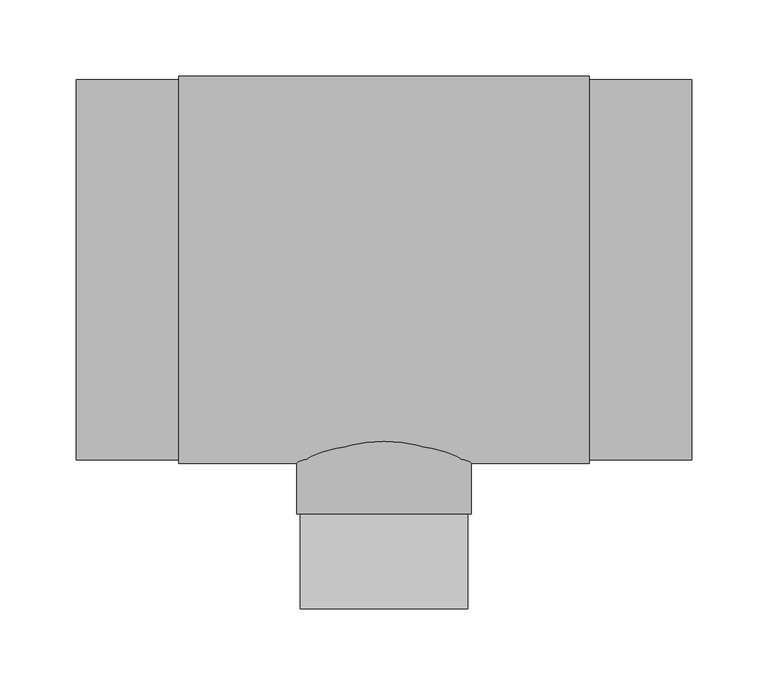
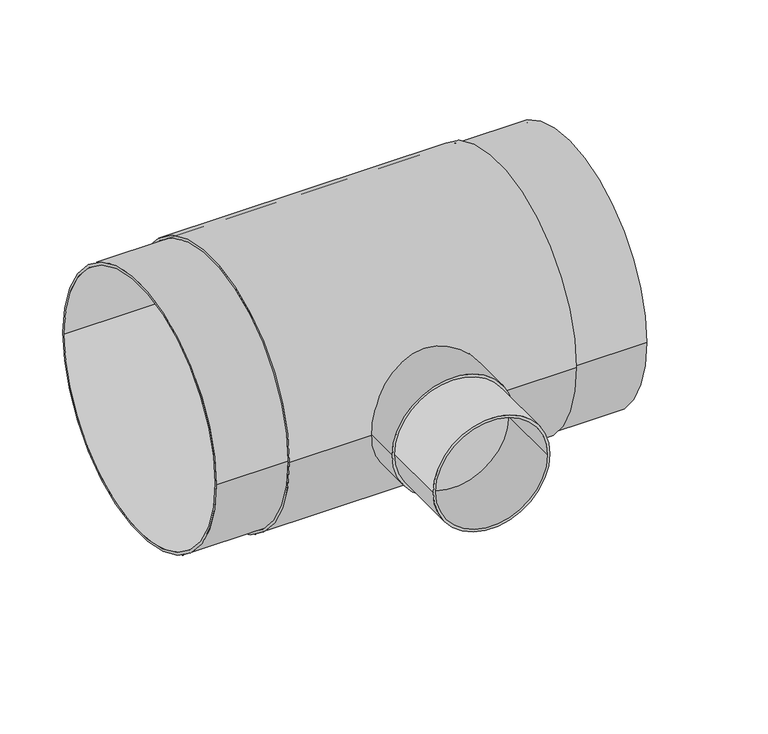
"""IFC4 building model written with IfcOpenShell, lengths in millimetres: pipe fitting geometry, EGB_VASEN_ PPR_Te a tope WXRB300_Te reducida a tope WXRB310 : Te a tope."""

from ifc_helpers import new_model, si_unit, point, frame, origin, origin_2d, place, context, project, spatial, circle_curve, trimmed, segment, composite_curve, outline, extrude, source, transform, mapped, element, save


def pipe_fitting_67c01e3f(model_context):
    return source(origin(), model_context, "Body", "SweptSolid", [
        extrude(outline(composite_curve([segment(trimmed(circle_curve(origin_2d(), 55.0), [point((0.0, 55.0))], [point((0.0, -55.0))], False, "CARTESIAN"), True, "CONTINUOUS"), segment(trimmed(circle_curve(origin_2d(), 55.0), [point((0.0, -55.0))], [point((0.0, 55.0))], False, "CARTESIAN"), True, "CONTINUOUS")], self_intersect=False), holes=[composite_curve([segment(trimmed(circle_curve(origin_2d(), 52.5), [point((0.0, 52.5))], [point((0.0, -52.5))], True, "CARTESIAN"), True, "CONTINUOUS"), segment(trimmed(circle_curve(origin_2d(), 52.5), [point((0.0, -52.5))], [point((0.0, 52.5))], True, "CARTESIAN"), True, "CONTINUOUS")], self_intersect=False)]), frame((0.0, -223.0, 0.0), z_axis=(0.0, 1.0, 0.0), x_axis=(0.0, 0.0, 1.0)), (0.0, 0.0, 1.0), 62.5),
        extrude(outline(composite_curve([segment(trimmed(circle_curve(origin_2d(), 57.5), [point((0.0, 57.5))], [point((0.0, -57.5))], False, "CARTESIAN"), True, "CONTINUOUS"), segment(trimmed(circle_curve(origin_2d(), 57.5), [point((0.0, -57.5))], [point((0.0, 57.5))], False, "CARTESIAN"), True, "CONTINUOUS")], self_intersect=False)), frame((0.0, -160.5, 0.0), z_axis=(0.0, 1.0, 0.0), x_axis=(0.0, 0.0, 1.0)), (0.0, 0.0, 1.0), 160.5),
        extrude(outline(composite_curve([segment(trimmed(circle_curve(origin_2d(), 127.5), [point((-127.5, 0.0))], [point((127.5, 0.0))], False, "CARTESIAN"), True, "CONTINUOUS"), segment(trimmed(circle_curve(origin_2d(), 127.5), [point((127.5, 0.0))], [point((-127.5, 0.0))], False, "CARTESIAN"), True, "CONTINUOUS")], self_intersect=False), holes=[composite_curve([segment(trimmed(circle_curve(origin_2d(), 125.0), [point((-125.0, 0.0))], [point((125.0, 0.0))], True, "CARTESIAN"), True, "CONTINUOUS"), segment(trimmed(circle_curve(origin_2d(), 125.0), [point((125.0, 0.0))], [point((-125.0, 0.0))], True, "CARTESIAN"), True, "CONTINUOUS")], self_intersect=False)]), frame((-135.0, 0.0, 0.0), z_axis=(1.0, 0.0, 0.0), x_axis=(0.0, 1.0, 0.0)), (0.0, 0.0, 1.0), 270.0),
        extrude(outline(composite_curve([segment(trimmed(circle_curve(origin_2d(), 125.0), [point((-125.0, 0.0))], [point((125.0, 0.0))], False, "CARTESIAN"), True, "CONTINUOUS"), segment(trimmed(circle_curve(origin_2d(), 125.0), [point((125.0, 0.0))], [point((-125.0, 0.0))], False, "CARTESIAN"), True, "CONTINUOUS")], self_intersect=False), holes=[composite_curve([segment(trimmed(circle_curve(origin_2d(), 122.5), [point((-122.5, 0.0))], [point((122.5, 0.0))], True, "CARTESIAN"), True, "CONTINUOUS"), segment(trimmed(circle_curve(origin_2d(), 122.5), [point((122.5, 0.0))], [point((-122.5, 0.0))], True, "CARTESIAN"), True, "CONTINUOUS")], self_intersect=False)]), frame((-202.5, 0.0, 0.0), z_axis=(1.0, 0.0, 0.0), x_axis=(0.0, 1.0, 0.0)), (0.0, 0.0, 1.0), 405.0),
    ])


if __name__ == "__main__":
    model = new_model("IFC4")
    model_context = context("Model", 3, world=origin())
    ifc_project = project(units=[si_unit("LENGTHUNIT", "METRE", prefix="MILLI")], contexts=[model_context])
    site = spatial("IfcSite", under=ifc_project)
    building = spatial("IfcBuilding", under=site)
    placement = place(None, origin())
    pipe_fitting_shape = pipe_fitting_67c01e3f(model_context)
    element("IfcPipeFitting", 1, ObjectType="EGB_VASEN_ PPR_Te a tope WXRB300_Te reducida a tope WXRB310 : Te a tope", at=placement, inside=building, context=model_context, shape_type="MappedRepresentation", body=[
        mapped(pipe_fitting_shape, transform((0.0, 0.0, 0.0), x_axis=(1.0, 0.0, 0.0), y_axis=(0.0, 1.0, 0.0), z_axis=(0.0, 0.0, 1.0))),
    ])
    save(model, "model.ifc")
